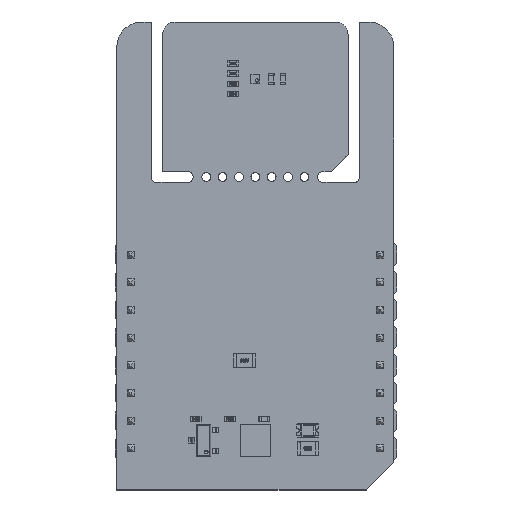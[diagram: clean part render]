
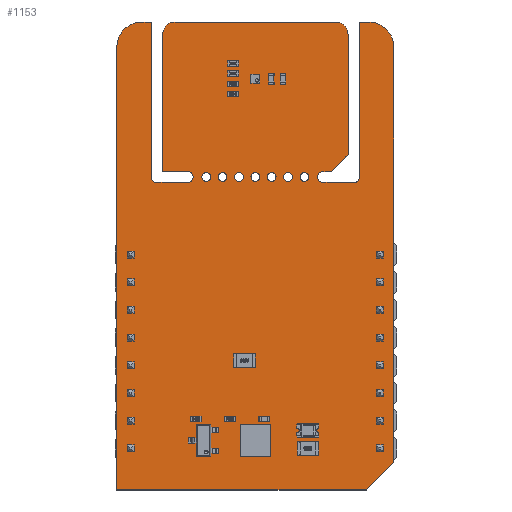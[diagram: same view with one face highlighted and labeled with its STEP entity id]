
A CAD part, top view. The second image highlights one B-rep face of the part: STEP entity #1153.
In plain terms, the highlighted planar face has unit normal (0, 0, 1).
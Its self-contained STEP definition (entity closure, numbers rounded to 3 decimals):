
#116 = VERTEX_POINT('',#117);
#117 = CARTESIAN_POINT('',(1.905,24.8,1.59));
#123 = EDGE_CURVE('',#116,#124,#126,.T.);
#124 = VERTEX_POINT('',#125);
#125 = CARTESIAN_POINT('',(2.305,24.4,1.59));
#126 = CIRCLE('',#127,0.399);
#127 = AXIS2_PLACEMENT_3D('',#128,#129,#130);
#128 = CARTESIAN_POINT('',(2.304,24.799,1.59));
#129 = DIRECTION('',(0.,0.,1.));
#130 = DIRECTION('',(-1.,0.001,0.));
#156 = EDGE_CURVE('',#124,#157,#159,.T.);
#157 = VERTEX_POINT('',#158);
#158 = CARTESIAN_POINT('',(5.23,24.4,1.59));
#159 = LINE('',#160,#161);
#160 = CARTESIAN_POINT('',(2.305,24.4,1.59));
#161 = VECTOR('',#162,1.);
#162 = DIRECTION('',(1.,0.,0.));
#187 = EDGE_CURVE('',#157,#188,#190,.T.);
#188 = VERTEX_POINT('',#189);
#189 = CARTESIAN_POINT('',(5.23,25.4,1.59));
#190 = CIRCLE('',#191,0.5);
#191 = AXIS2_PLACEMENT_3D('',#192,#193,#194);
#192 = CARTESIAN_POINT('',(5.23,24.9,1.59));
#193 = DIRECTION('',(0.,0.,1.));
#194 = DIRECTION('',(-0.,-1.,0.));
#220 = EDGE_CURVE('',#188,#221,#223,.T.);
#221 = VERTEX_POINT('',#222);
#222 = CARTESIAN_POINT('',(2.921,25.4,1.59));
#223 = LINE('',#224,#225);
#224 = CARTESIAN_POINT('',(5.23,25.4,1.59));
#225 = VECTOR('',#226,1.);
#226 = DIRECTION('',(-1.,0.,0.));
#251 = EDGE_CURVE('',#221,#252,#254,.T.);
#252 = VERTEX_POINT('',#253);
#253 = CARTESIAN_POINT('',(2.921,37.973,1.59));
#254 = LINE('',#255,#256);
#255 = CARTESIAN_POINT('',(2.921,25.4,1.59));
#256 = VECTOR('',#257,1.);
#257 = DIRECTION('',(0.,1.,0.));
#282 = EDGE_CURVE('',#252,#283,#285,.T.);
#283 = VERTEX_POINT('',#284);
#284 = CARTESIAN_POINT('',(4.064,39.116,1.59));
#285 = CIRCLE('',#286,1.144);
#286 = AXIS2_PLACEMENT_3D('',#287,#288,#289);
#287 = CARTESIAN_POINT('',(4.065,37.972,1.59));
#288 = DIRECTION('',(0.,0.,-1.));
#289 = DIRECTION('',(-1.,0.001,0.));
#315 = EDGE_CURVE('',#283,#316,#318,.T.);
#316 = VERTEX_POINT('',#317);
#317 = CARTESIAN_POINT('',(18.796,39.116,1.59));
#318 = LINE('',#319,#320);
#319 = CARTESIAN_POINT('',(4.064,39.116,1.59));
#320 = VECTOR('',#321,1.);
#321 = DIRECTION('',(1.,0.,0.));
#346 = EDGE_CURVE('',#316,#347,#349,.T.);
#347 = VERTEX_POINT('',#348);
#348 = CARTESIAN_POINT('',(19.939,37.973,1.59));
#349 = CIRCLE('',#350,1.144);
#350 = AXIS2_PLACEMENT_3D('',#351,#352,#353);
#351 = CARTESIAN_POINT('',(18.795,37.972,1.59));
#352 = DIRECTION('',(0.,0.,-1.));
#353 = DIRECTION('',(0.001,1.,0.));
#379 = EDGE_CURVE('',#347,#380,#382,.T.);
#380 = VERTEX_POINT('',#381);
#381 = CARTESIAN_POINT('',(19.939,26.924,1.59));
#382 = LINE('',#383,#384);
#383 = CARTESIAN_POINT('',(19.939,37.973,1.59));
#384 = VECTOR('',#385,1.);
#385 = DIRECTION('',(0.,-1.,0.));
#410 = EDGE_CURVE('',#380,#411,#413,.T.);
#411 = VERTEX_POINT('',#412);
#412 = CARTESIAN_POINT('',(18.415,25.4,1.59));
#413 = LINE('',#414,#415);
#414 = CARTESIAN_POINT('',(19.939,26.924,1.59));
#415 = VECTOR('',#416,1.);
#416 = DIRECTION('',(-0.707,-0.707,0.));
#441 = EDGE_CURVE('',#411,#442,#444,.T.);
#442 = VERTEX_POINT('',#443);
#443 = CARTESIAN_POINT('',(17.63,25.4,1.59));
#444 = LINE('',#445,#446);
#445 = CARTESIAN_POINT('',(18.415,25.4,1.59));
#446 = VECTOR('',#447,1.);
#447 = DIRECTION('',(-1.,0.,0.));
#472 = EDGE_CURVE('',#442,#473,#475,.T.);
#473 = VERTEX_POINT('',#474);
#474 = CARTESIAN_POINT('',(17.63,24.4,1.59));
#475 = CIRCLE('',#476,0.5);
#476 = AXIS2_PLACEMENT_3D('',#477,#478,#479);
#477 = CARTESIAN_POINT('',(17.63,24.9,1.59));
#478 = DIRECTION('',(0.,-0.,1.));
#479 = DIRECTION('',(0.,1.,0.));
#505 = EDGE_CURVE('',#473,#506,#508,.T.);
#506 = VERTEX_POINT('',#507);
#507 = CARTESIAN_POINT('',(20.555,24.4,1.59));
#508 = LINE('',#509,#510);
#509 = CARTESIAN_POINT('',(17.63,24.4,1.59));
#510 = VECTOR('',#511,1.);
#511 = DIRECTION('',(1.,0.,0.));
#536 = EDGE_CURVE('',#506,#537,#539,.T.);
#537 = VERTEX_POINT('',#538);
#538 = CARTESIAN_POINT('',(20.955,24.8,1.59));
#539 = CIRCLE('',#540,0.399);
#540 = AXIS2_PLACEMENT_3D('',#541,#542,#543);
#541 = CARTESIAN_POINT('',(20.556,24.799,1.59));
#542 = DIRECTION('',(0.,0.,1.));
#543 = DIRECTION('',(-0.001,-1.,0.));
#569 = EDGE_CURVE('',#537,#570,#572,.T.);
#570 = VERTEX_POINT('',#571);
#571 = CARTESIAN_POINT('',(20.955,39.116,1.59));
#572 = LINE('',#573,#574);
#573 = CARTESIAN_POINT('',(20.955,24.8,1.59));
#574 = VECTOR('',#575,1.);
#575 = DIRECTION('',(0.,1.,0.));
#600 = EDGE_CURVE('',#570,#601,#603,.T.);
#601 = VERTEX_POINT('',#602);
#602 = CARTESIAN_POINT('',(21.844,39.116,1.59));
#603 = LINE('',#604,#605);
#604 = CARTESIAN_POINT('',(20.955,39.116,1.59));
#605 = VECTOR('',#606,1.);
#606 = DIRECTION('',(1.,0.,0.));
#631 = EDGE_CURVE('',#601,#632,#634,.T.);
#632 = VERTEX_POINT('',#633);
#633 = CARTESIAN_POINT('',(24.13,36.83,1.59));
#634 = CIRCLE('',#635,2.288);
#635 = AXIS2_PLACEMENT_3D('',#636,#637,#638);
#636 = CARTESIAN_POINT('',(21.842,36.828,1.59));
#637 = DIRECTION('',(0.,0.,-1.));
#638 = DIRECTION('',(0.001,1.,0.));
#664 = EDGE_CURVE('',#632,#665,#667,.T.);
#665 = VERTEX_POINT('',#666);
#666 = CARTESIAN_POINT('',(24.13,-1.27,1.59));
#667 = LINE('',#668,#669);
#668 = CARTESIAN_POINT('',(24.13,36.83,1.59));
#669 = VECTOR('',#670,1.);
#670 = DIRECTION('',(0.,-1.,0.));
#695 = EDGE_CURVE('',#665,#696,#698,.T.);
#696 = VERTEX_POINT('',#697);
#697 = CARTESIAN_POINT('',(21.59,-3.81,1.59));
#698 = LINE('',#699,#700);
#699 = CARTESIAN_POINT('',(24.13,-1.27,1.59));
#700 = VECTOR('',#701,1.);
#701 = DIRECTION('',(-0.707,-0.707,0.));
#726 = EDGE_CURVE('',#696,#727,#729,.T.);
#727 = VERTEX_POINT('',#728);
#728 = CARTESIAN_POINT('',(-1.27,-3.81,1.59));
#729 = LINE('',#730,#731);
#730 = CARTESIAN_POINT('',(21.59,-3.81,1.59));
#731 = VECTOR('',#732,1.);
#732 = DIRECTION('',(-1.,0.,0.));
#757 = EDGE_CURVE('',#727,#758,#760,.T.);
#758 = VERTEX_POINT('',#759);
#759 = CARTESIAN_POINT('',(-1.27,36.83,1.59));
#760 = LINE('',#761,#762);
#761 = CARTESIAN_POINT('',(-1.27,-3.81,1.59));
#762 = VECTOR('',#763,1.);
#763 = DIRECTION('',(0.,1.,0.));
#788 = EDGE_CURVE('',#758,#789,#791,.T.);
#789 = VERTEX_POINT('',#790);
#790 = CARTESIAN_POINT('',(1.016,39.116,1.59));
#791 = CIRCLE('',#792,2.288);
#792 = AXIS2_PLACEMENT_3D('',#793,#794,#795);
#793 = CARTESIAN_POINT('',(1.018,36.828,1.59));
#794 = DIRECTION('',(0.,0.,-1.));
#795 = DIRECTION('',(-1.,0.001,0.));
#821 = EDGE_CURVE('',#789,#822,#824,.T.);
#822 = VERTEX_POINT('',#823);
#823 = CARTESIAN_POINT('',(1.905,39.116,1.59));
#824 = LINE('',#825,#826);
#825 = CARTESIAN_POINT('',(1.016,39.116,1.59));
#826 = VECTOR('',#827,1.);
#827 = DIRECTION('',(1.,0.,0.));
#852 = EDGE_CURVE('',#822,#116,#853,.T.);
#853 = LINE('',#854,#855);
#854 = CARTESIAN_POINT('',(1.905,39.116,1.59));
#855 = VECTOR('',#856,1.);
#856 = DIRECTION('',(0.,-1.,0.));
#876 = VERTEX_POINT('',#877);
#877 = CARTESIAN_POINT('',(10.33,24.9,1.59));
#883 = EDGE_CURVE('',#876,#876,#884,.T.);
#884 = CIRCLE('',#885,0.4);
#885 = AXIS2_PLACEMENT_3D('',#886,#887,#888);
#886 = CARTESIAN_POINT('',(9.93,24.9,1.59));
#887 = DIRECTION('',(0.,0.,1.));
#888 = DIRECTION('',(1.,0.,-0.));
#909 = VERTEX_POINT('',#910);
#910 = CARTESIAN_POINT('',(7.33,24.9,1.59));
#916 = EDGE_CURVE('',#909,#909,#917,.T.);
#917 = CIRCLE('',#918,0.4);
#918 = AXIS2_PLACEMENT_3D('',#919,#920,#921);
#919 = CARTESIAN_POINT('',(6.93,24.9,1.59));
#920 = DIRECTION('',(0.,0.,1.));
#921 = DIRECTION('',(1.,0.,-0.));
#942 = VERTEX_POINT('',#943);
#943 = CARTESIAN_POINT('',(8.83,24.9,1.59));
#949 = EDGE_CURVE('',#942,#942,#950,.T.);
#950 = CIRCLE('',#951,0.4);
#951 = AXIS2_PLACEMENT_3D('',#952,#953,#954);
#952 = CARTESIAN_POINT('',(8.43,24.9,1.59));
#953 = DIRECTION('',(0.,0.,1.));
#954 = DIRECTION('',(1.,0.,-0.));
#975 = VERTEX_POINT('',#976);
#976 = CARTESIAN_POINT('',(14.83,24.9,1.59));
#982 = EDGE_CURVE('',#975,#975,#983,.T.);
#983 = CIRCLE('',#984,0.4);
#984 = AXIS2_PLACEMENT_3D('',#985,#986,#987);
#985 = CARTESIAN_POINT('',(14.43,24.9,1.59));
#986 = DIRECTION('',(0.,0.,1.));
#987 = DIRECTION('',(1.,0.,-0.));
#1008 = VERTEX_POINT('',#1009);
#1009 = CARTESIAN_POINT('',(16.33,24.9,1.59));
#1015 = EDGE_CURVE('',#1008,#1008,#1016,.T.);
#1016 = CIRCLE('',#1017,0.4);
#1017 = AXIS2_PLACEMENT_3D('',#1018,#1019,#1020);
#1018 = CARTESIAN_POINT('',(15.93,24.9,1.59));
#1019 = DIRECTION('',(0.,0.,1.));
#1020 = DIRECTION('',(1.,0.,-0.));
#1041 = VERTEX_POINT('',#1042);
#1042 = CARTESIAN_POINT('',(11.83,24.9,1.59));
#1048 = EDGE_CURVE('',#1041,#1041,#1049,.T.);
#1049 = CIRCLE('',#1050,0.4);
#1050 = AXIS2_PLACEMENT_3D('',#1051,#1052,#1053);
#1051 = CARTESIAN_POINT('',(11.43,24.9,1.59));
#1052 = DIRECTION('',(0.,0.,1.));
#1053 = DIRECTION('',(1.,0.,-0.));
#1074 = VERTEX_POINT('',#1075);
#1075 = CARTESIAN_POINT('',(13.33,24.9,1.59));
#1081 = EDGE_CURVE('',#1074,#1074,#1082,.T.);
#1082 = CIRCLE('',#1083,0.4);
#1083 = AXIS2_PLACEMENT_3D('',#1084,#1085,#1086);
#1084 = CARTESIAN_POINT('',(12.93,24.9,1.59));
#1085 = DIRECTION('',(0.,0.,1.));
#1086 = DIRECTION('',(1.,0.,-0.));
#1153 = ADVANCED_FACE('',(#1154,#1180,#1183,#1186,#1189,#1192,#1195,
    #1198),#1201,.F.);
#1154 = FACE_BOUND('',#1155,.F.);
#1155 = EDGE_LOOP('',(#1156,#1157,#1158,#1159,#1160,#1161,#1162,#1163,
    #1164,#1165,#1166,#1167,#1168,#1169,#1170,#1171,#1172,#1173,#1174,
    #1175,#1176,#1177,#1178,#1179));
#1156 = ORIENTED_EDGE('',*,*,#123,.T.);
#1157 = ORIENTED_EDGE('',*,*,#156,.T.);
#1158 = ORIENTED_EDGE('',*,*,#187,.T.);
#1159 = ORIENTED_EDGE('',*,*,#220,.T.);
#1160 = ORIENTED_EDGE('',*,*,#251,.T.);
#1161 = ORIENTED_EDGE('',*,*,#282,.T.);
#1162 = ORIENTED_EDGE('',*,*,#315,.T.);
#1163 = ORIENTED_EDGE('',*,*,#346,.T.);
#1164 = ORIENTED_EDGE('',*,*,#379,.T.);
#1165 = ORIENTED_EDGE('',*,*,#410,.T.);
#1166 = ORIENTED_EDGE('',*,*,#441,.T.);
#1167 = ORIENTED_EDGE('',*,*,#472,.T.);
#1168 = ORIENTED_EDGE('',*,*,#505,.T.);
#1169 = ORIENTED_EDGE('',*,*,#536,.T.);
#1170 = ORIENTED_EDGE('',*,*,#569,.T.);
#1171 = ORIENTED_EDGE('',*,*,#600,.T.);
#1172 = ORIENTED_EDGE('',*,*,#631,.T.);
#1173 = ORIENTED_EDGE('',*,*,#664,.T.);
#1174 = ORIENTED_EDGE('',*,*,#695,.T.);
#1175 = ORIENTED_EDGE('',*,*,#726,.T.);
#1176 = ORIENTED_EDGE('',*,*,#757,.T.);
#1177 = ORIENTED_EDGE('',*,*,#788,.T.);
#1178 = ORIENTED_EDGE('',*,*,#821,.T.);
#1179 = ORIENTED_EDGE('',*,*,#852,.T.);
#1180 = FACE_BOUND('',#1181,.F.);
#1181 = EDGE_LOOP('',(#1182));
#1182 = ORIENTED_EDGE('',*,*,#883,.T.);
#1183 = FACE_BOUND('',#1184,.F.);
#1184 = EDGE_LOOP('',(#1185));
#1185 = ORIENTED_EDGE('',*,*,#916,.T.);
#1186 = FACE_BOUND('',#1187,.F.);
#1187 = EDGE_LOOP('',(#1188));
#1188 = ORIENTED_EDGE('',*,*,#949,.T.);
#1189 = FACE_BOUND('',#1190,.F.);
#1190 = EDGE_LOOP('',(#1191));
#1191 = ORIENTED_EDGE('',*,*,#982,.T.);
#1192 = FACE_BOUND('',#1193,.F.);
#1193 = EDGE_LOOP('',(#1194));
#1194 = ORIENTED_EDGE('',*,*,#1015,.T.);
#1195 = FACE_BOUND('',#1196,.F.);
#1196 = EDGE_LOOP('',(#1197));
#1197 = ORIENTED_EDGE('',*,*,#1048,.T.);
#1198 = FACE_BOUND('',#1199,.F.);
#1199 = EDGE_LOOP('',(#1200));
#1200 = ORIENTED_EDGE('',*,*,#1081,.T.);
#1201 = PLANE('',#1202);
#1202 = AXIS2_PLACEMENT_3D('',#1203,#1204,#1205);
#1203 = CARTESIAN_POINT('',(11.288,21.814,1.59));
#1204 = DIRECTION('',(-0.,-0.,-1.));
#1205 = DIRECTION('',(-1.,0.,0.));
